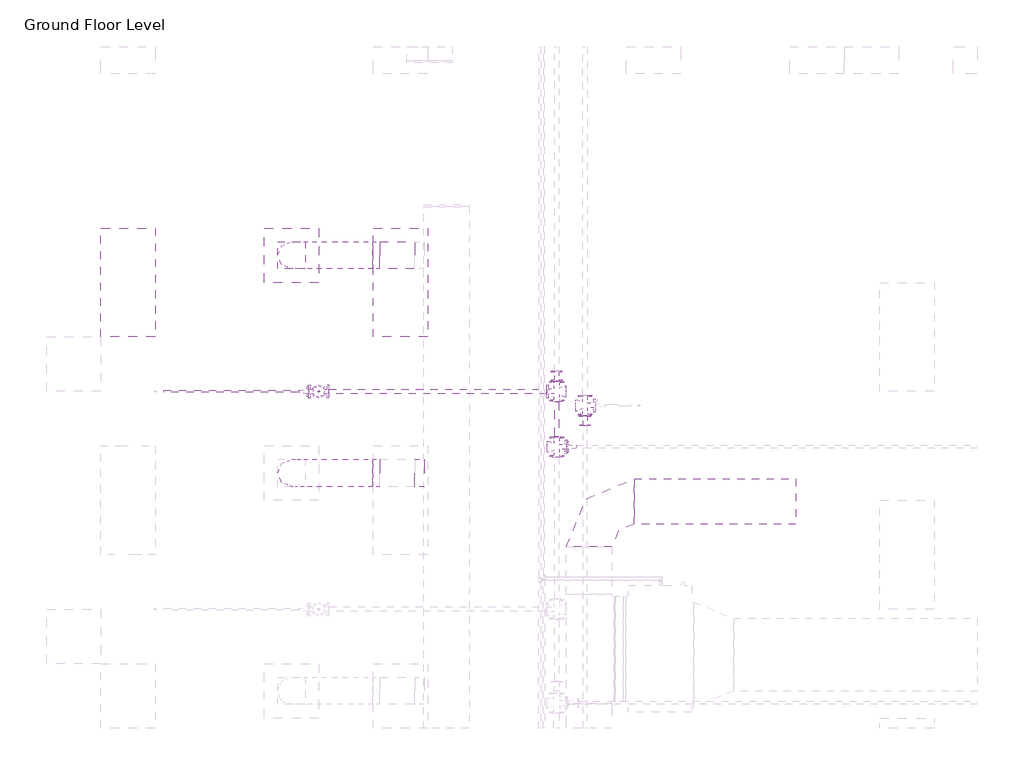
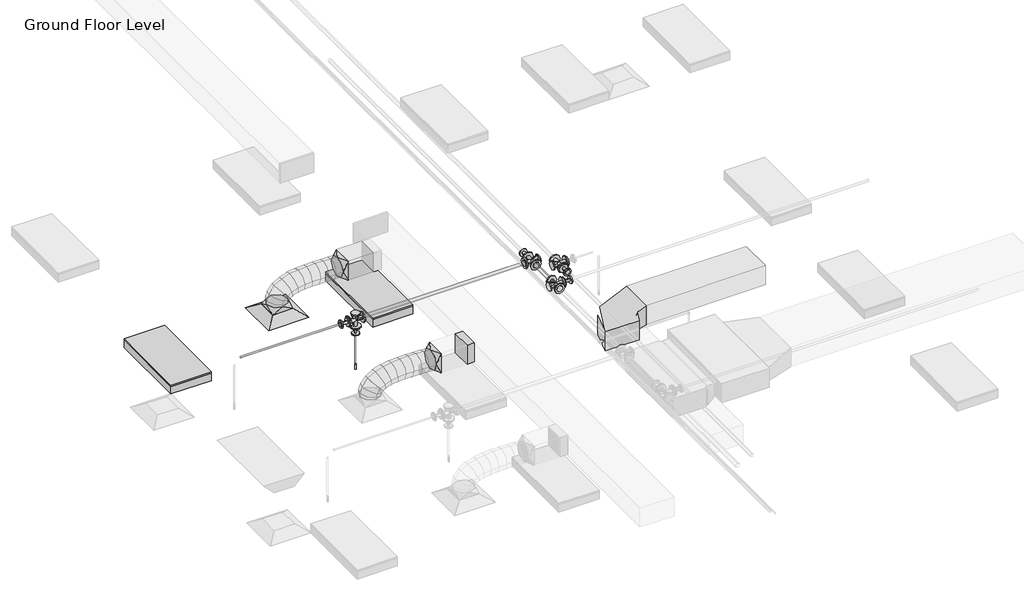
# One storey, part 26 of 74: 9 pipe fittings, 5 duct fittings, 4 duct segments, 4 pipe segments, 2 light fixtures, 1 air terminal, 1 fire suppression terminal.
"""IFC4 building model written with IfcOpenShell, lengths in millimetres."""

from ifc_helpers import new_model, si_unit, point, frame, frame_2d, origin, place, context, project, spatial, polyline, circle_curve, ellipse_curve, trimmed, segment, composite_curve, outline, extrude, transform, mapped, element, save
from ifc_brep_helpers import plane_surface, cylinder_surface, advanced_brep
from components import m_return_diffuser_600_x_600_face_300_x_300_connection_ff221211, m_rectangular_elbow_radius_1_w_abe20169, m_rectangular_takeoff_standard_cb0ccb98, m_rectangular_to_round_transition_angle_45_degree_641efff0, m_sprinkler_dry_pendent_hosted_15_mm_dry_pendent_9bda8e11, m_troffer_light_parabolic_rectangular1_0600x1200mm_4_lamp_86473d4a, m_reducer_flanged_cs_class_150_standard_564df86d, m_reducer_flanged_cs_class_150_standard_8338f9e4, m_reducer_flanged_cs_class_150_standard_dc68ad9d, m_tee_round_base_flanged_cs_class_150_standard_ab36f383

model = new_model("IFC4")

# Units and contexts
model_context = context("Model", 3, world=origin())
ifc_project = project(units=[si_unit("LENGTHUNIT", "METRE", prefix="MILLI")], contexts=[model_context])

# Site, building, storey
site = spatial("IfcSite", under=ifc_project)
building = spatial("IfcBuilding", under=site)
storey = spatial("IfcBuildingStorey", under=building, Name="Ground Floor Level", Elevation=900.0)

# Air terminal
placement = place(None, origin())
m_return_diffuser_600_x_600_face_300_x_300_connection_shape = m_return_diffuser_600_x_600_face_300_x_300_connection_ff221211(model_context)
element("IfcAirTerminal", 1, ObjectType="M_Supply Diffuser : 600 x 600 Face 300 x 300 Connection", at=placement, inside=storey, context=model_context, shape_type="MappedRepresentation", body=[
    mapped(m_return_diffuser_600_x_600_face_300_x_300_connection_shape, transform((2762.7672395, -17164.7846466, 3650.0), x_axis=(1.0, 0.0, 0.0), y_axis=(0.0, 1.0, 0.0), z_axis=(0.0, 0.0, 1.0))),
])

# Duct fittings
m_rectangular_elbow_radius_1_w_shape = m_rectangular_elbow_radius_1_w_abe20169(model_context)
element("IfcDuctFitting", 2, ObjectType="M_Rectangular Elbow - Radius : 1 W", at=placement, inside=storey, context=model_context, shape_type="MappedRepresentation", body=[
    mapped(m_rectangular_elbow_radius_1_w_shape, transform((6040.9897768, -19877.6206315, 4082.4543707), x_axis=(-1.0, 0.0, 0.0), y_axis=(0.0, -1.0, 0.0), z_axis=(0.0, 0.0, 1.0))),
])
m_rectangular_takeoff_standard_shape = m_rectangular_takeoff_standard_cb0ccb98(model_context)
element("IfcDuctFitting", 3, ObjectType="M_Rectangular Takeoff : Standard", at=placement, inside=storey, context=model_context, shape_type="MappedRepresentation", body=[
    mapped(m_rectangular_takeoff_standard_shape, transform((4219.1581832, -19564.7846466, 4057.1479019), x_axis=(-1.0, 0.0, 0.0), y_axis=(0.0, 1.0, 0.0), z_axis=(0.0, 0.0, -1.0))),
])
m_rectangular_to_round_transition_angle_45_degree_shape = m_rectangular_to_round_transition_angle_45_degree_641efff0(model_context)
element("IfcDuctFitting", 4, ObjectType="M_Rectangular to Round Transition - Angle : 45 Degree", at=placement, inside=storey, context=model_context, shape_type="MappedRepresentation", body=[
    mapped(m_rectangular_to_round_transition_angle_45_degree_shape, transform((2762.7672395, -17164.7846466, 3751.6), x_axis=(0.0, 0.0, 1.0), y_axis=(-1.0, 0.0, 0.0), z_axis=(0.0, -1.0, 0.0))),
])
element("IfcDuctFitting", 5, ObjectType="M_Rectangular to Round Transition - Angle : 45 Degree", at=placement, inside=storey, context=model_context, shape_type="MappedRepresentation", body=[
    mapped(m_rectangular_to_round_transition_angle_45_degree_shape, transform((3732.9593248, -17164.7846466, 4057.143846), x_axis=(-1.0, 0.0, 0.0), y_axis=(0.0, -1.0, 0.0), z_axis=(0.0, 0.0, 1.0))),
])
element("IfcDuctFitting", 6, ObjectType="M_Rectangular to Round Transition - Angle : 45 Degree", at=placement, inside=storey, context=model_context, shape_type="MappedRepresentation", body=[
    mapped(m_rectangular_to_round_transition_angle_45_degree_shape, transform((3732.9552689, -19564.7846466, 4057.1479019), x_axis=(-1.0, 0.0, 0.0), y_axis=(0.0, -1.0, 0.0), z_axis=(0.0, 0.0, 1.0))),
])

# Duct segments
element("IfcDuctSegment", 7, ObjectType="Flex - Round", at=placement, inside=storey, context=model_context, shape_type="AdvancedBrep", body=[
    advanced_brep(
    [(2912.7672395, -17164.7846466, 3826.6), (2762.7672395, -17314.7846466, 3826.6), (2612.7672395, -17164.7846466, 3826.6), (2762.7672395, -17014.7846466, 3826.6), (2912.7672395, -17164.7846466, 3832.8904054), (2762.7672395, -17314.7846466, 3856.84963), (2612.7672395, -17164.7846466, 3880.8088546), (2762.7672395, -17014.7846466, 3856.84963), (2914.0857611, -17164.7846466, 3836.9124951), (2779.5129985, -17314.7846466, 3907.9318018), (2644.940236, -17164.7846466, 3978.9511085), (2779.5129985, -17014.7846466, 3907.9318018), (2928.1333628, -17164.7846466, 3855.2232955), (2826.2863476, -17314.7846466, 3968.9000352), (2724.4393324, -17164.7846466, 4082.5767748), (2826.2863476, -17014.7846466, 3968.9000352), (2960.0749195, -17164.7846466, 3874.5762626), (2897.8913945, -17314.7846466, 4012.2845867), (2835.7078695, -17164.7846466, 4149.9929109), (2897.8913945, -17014.7846466, 4012.2845867), (3023.3474104, -17164.7846466, 3894.3960649), (2989.1322471, -17314.7846466, 4040.8653433), (2954.9170839, -17164.7846466, 4187.3346218), (2989.1322471, -17014.7846466, 4040.8653433), (3111.2188579, -17164.7846466, 3908.1627538), (3094.8130134, -17314.7846466, 4057.4221917), (3078.407169, -17164.7846466, 4206.6816296), (3094.8130134, -17014.7846466, 4057.4221917), (3215.0397402, -17164.7846466, 3914.7690234), (3209.7378012, -17314.7846466, 4064.7350186), (3204.4358622, -17164.7846466, 4214.7010137), (3209.7378012, -17014.7846466, 4064.7350186), (3327.4409955, -17164.7846466, 3915.5708367), (3328.7107184, -17314.7846466, 4065.5837107), (3329.9804412, -17164.7846466, 4215.5965847), (3328.7107184, -17014.7846466, 4065.5837107), (3442.2167216, -17164.7846466, 3912.8086677), (3446.5358728, -17314.7846466, 4062.7481548), (3450.855024, -17164.7846466, 4212.6876419), (3446.5358728, -17014.7846466, 4062.7481548), (3554.063392, -17164.7846466, 3909.0565), (3558.0173723, -17314.7846466, 4059.0082376), (3561.9713526, -17164.7846466, 4208.9599753), (3558.0173723, -17014.7846466, 4059.0082376), (3657.9593248, -17164.7846466, 3907.143846), (3657.9593248, -17014.7846466, 4057.143846), (3657.9593248, -17164.7846466, 4207.143846), (3657.9593248, -17314.7846466, 4057.143846), (3653.7223326, -17164.7846466, 3907.143846), (3655.1615998, -17314.7846466, 4057.143846), (3656.600867, -17164.7846466, 4207.143846), (3655.1615998, -17014.7846466, 4057.143846)],
    [
        (0, 1, circle_curve(frame((2762.7672395, -17164.7846466, 3826.6), z_axis=(0.0, 0.0, -1.0), x_axis=(1.0, 0.0, 0.0)), 150.0)),
        (1, 2, circle_curve(frame((2762.7672395, -17164.7846466, 3826.6), z_axis=(0.0, 0.0, -1.0), x_axis=(1.0, 0.0, 0.0)), 150.0)),
        (2, 3, circle_curve(frame((2762.7672395, -17164.7846466, 3826.6), z_axis=(0.0, 0.0, -1.0), x_axis=(1.0, 0.0, 0.0)), 150.0)),
        (3, 0, circle_curve(frame((2762.7672395, -17164.7846466, 3826.6), z_axis=(0.0, 0.0, -1.0), x_axis=(1.0, 0.0, 0.0)), 150.0)),
        (0, 4),
        (4, 5, ellipse_curve(frame((2762.7672395, -17164.7846466, 3856.84963), z_axis=(-0.1577287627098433, 0.0, -0.9874824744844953), x_axis=(0.9874824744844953, 0.0, -0.15772876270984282)), 151.90143, 150.0)),
        (5, 1),
        (5, 6, ellipse_curve(frame((2762.7672395, -17164.7846466, 3856.84963), z_axis=(-0.1577287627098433, 0.0, -0.9874824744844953), x_axis=(0.9874824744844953, 0.0, -0.15772876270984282)), 151.90143, 150.0)),
        (6, 2),
        (6, 7, ellipse_curve(frame((2762.7672395, -17164.7846466, 3856.84963), z_axis=(-0.1577287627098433, 0.0, -0.9874824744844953), x_axis=(0.9874824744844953, 0.0, -0.15772876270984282)), 151.90143, 150.0)),
        (7, 3),
        (7, 4, ellipse_curve(frame((2762.7672395, -17164.7846466, 3856.84963), z_axis=(-0.1577287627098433, 0.0, -0.9874824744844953), x_axis=(0.9874824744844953, 0.0, -0.15772876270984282)), 151.90143, 150.0)),
        (4, 8),
        (8, 9, ellipse_curve(frame((2779.5129985, -17164.7846466, 3907.9318018), z_axis=(-0.4667318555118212, 0.0, -0.8843988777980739), x_axis=(0.8843988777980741, 0.0, -0.4667318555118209)), 152.162973, 150.0)),
        (9, 5),
        (9, 10, ellipse_curve(frame((2779.5129985, -17164.7846466, 3907.9318018), z_axis=(-0.4667318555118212, 0.0, -0.8843988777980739), x_axis=(0.8843988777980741, 0.0, -0.4667318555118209)), 152.162973, 150.0)),
        (10, 6),
        (10, 11, ellipse_curve(frame((2779.5129985, -17164.7846466, 3907.9318018), z_axis=(-0.4667318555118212, 0.0, -0.8843988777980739), x_axis=(0.8843988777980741, 0.0, -0.4667318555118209)), 152.162973, 150.0)),
        (11, 7),
        (11, 8, ellipse_curve(frame((2779.5129985, -17164.7846466, 3907.9318018), z_axis=(-0.4667318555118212, 0.0, -0.8843988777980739), x_axis=(0.8843988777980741, 0.0, -0.4667318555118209)), 152.162973, 150.0)),
        (8, 12),
        (12, 13, ellipse_curve(frame((2826.2863476, -17164.7846466, 3968.9000352), z_axis=(-0.7447975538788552, 0.0, -0.6672904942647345), x_axis=(0.667290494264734, 0.0, -0.7447975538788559)), 152.6277027, 150.0)),
        (13, 9),
        (13, 14, ellipse_curve(frame((2826.2863476, -17164.7846466, 3968.9000352), z_axis=(-0.7447975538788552, 0.0, -0.6672904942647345), x_axis=(0.667290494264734, 0.0, -0.7447975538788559)), 152.6277027, 150.0)),
        (14, 10),
        (14, 15, ellipse_curve(frame((2826.2863476, -17164.7846466, 3968.9000352), z_axis=(-0.7447975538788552, 0.0, -0.6672904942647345), x_axis=(0.667290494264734, 0.0, -0.7447975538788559)), 152.6277027, 150.0)),
        (15, 11),
        (15, 12, ellipse_curve(frame((2826.2863476, -17164.7846466, 3968.9000352), z_axis=(-0.7447975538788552, 0.0, -0.6672904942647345), x_axis=(0.667290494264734, 0.0, -0.7447975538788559)), 152.6277027, 150.0)),
        (12, 16),
        (16, 17, ellipse_curve(frame((2897.8913945, -17164.7846466, 4012.2845867), z_axis=(-0.9113887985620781, 0.0, -0.41154642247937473), x_axis=(0.41154642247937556, 0.0, -0.9113887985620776)), 151.0972314, 150.0)),
        (17, 13),
        (17, 18, ellipse_curve(frame((2897.8913945, -17164.7846466, 4012.2845867), z_axis=(-0.9113887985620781, 0.0, -0.41154642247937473), x_axis=(0.41154642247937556, 0.0, -0.9113887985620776)), 151.0972314, 150.0)),
        (18, 14),
        (18, 19, ellipse_curve(frame((2897.8913945, -17164.7846466, 4012.2845867), z_axis=(-0.9113887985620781, 0.0, -0.41154642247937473), x_axis=(0.41154642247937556, 0.0, -0.9113887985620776)), 151.0972314, 150.0)),
        (19, 15),
        (19, 16, ellipse_curve(frame((2897.8913945, -17164.7846466, 4012.2845867), z_axis=(-0.9113887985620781, 0.0, -0.41154642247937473), x_axis=(0.41154642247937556, 0.0, -0.9113887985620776)), 151.0972314, 150.0)),
        (16, 20),
        (20, 21, ellipse_curve(frame((2989.1322471, -17164.7846466, 4040.8653433), z_axis=(-0.9737838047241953, 0.0, -0.2274754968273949), x_axis=(0.22747549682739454, 0.0, -0.9737838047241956)), 150.4125225, 150.0)),
        (21, 17),
        (21, 22, ellipse_curve(frame((2989.1322471, -17164.7846466, 4040.8653433), z_axis=(-0.9737838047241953, 0.0, -0.2274754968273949), x_axis=(0.22747549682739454, 0.0, -0.9737838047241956)), 150.4125225, 150.0)),
        (22, 18),
        (22, 23, ellipse_curve(frame((2989.1322471, -17164.7846466, 4040.8653433), z_axis=(-0.9737838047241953, 0.0, -0.2274754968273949), x_axis=(0.22747549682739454, 0.0, -0.9737838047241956)), 150.4125225, 150.0)),
        (23, 19),
        (23, 20, ellipse_curve(frame((2989.1322471, -17164.7846466, 4040.8653433), z_axis=(-0.9737838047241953, 0.0, -0.2274754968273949), x_axis=(0.22747549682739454, 0.0, -0.9737838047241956)), 150.4125225, 150.0)),
        (20, 24),
        (24, 25, ellipse_curve(frame((3094.8130134, -17164.7846466, 4057.4221917), z_axis=(-0.9940135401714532, 0.0, -0.10925695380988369), x_axis=(0.1092569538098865, 0.0, -0.9940135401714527)), 150.1583549, 150.0)),
        (25, 21),
        (25, 26, ellipse_curve(frame((3094.8130134, -17164.7846466, 4057.4221917), z_axis=(-0.9940135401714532, 0.0, -0.10925695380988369), x_axis=(0.1092569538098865, 0.0, -0.9940135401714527)), 150.1583549, 150.0)),
        (26, 22),
        (26, 27, ellipse_curve(frame((3094.8130134, -17164.7846466, 4057.4221917), z_axis=(-0.9940135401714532, 0.0, -0.10925695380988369), x_axis=(0.1092569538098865, 0.0, -0.9940135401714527)), 150.1583549, 150.0)),
        (27, 23),
        (27, 24, ellipse_curve(frame((3094.8130134, -17164.7846466, 4057.4221917), z_axis=(-0.9940135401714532, 0.0, -0.10925695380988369), x_axis=(0.1092569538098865, 0.0, -0.9940135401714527)), 150.1583549, 150.0)),
        (24, 28),
        (28, 29, ellipse_curve(frame((3209.7378012, -17164.7846466, 4064.7350186), z_axis=(-0.999375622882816, 0.0, -0.035332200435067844), x_axis=(0.035332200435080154, 0.0, -0.9993756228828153)), 150.059689, 150.0)),
        (29, 25),
        (29, 30, ellipse_curve(frame((3209.7378012, -17164.7846466, 4064.7350186), z_axis=(-0.999375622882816, 0.0, -0.035332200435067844), x_axis=(0.035332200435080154, 0.0, -0.9993756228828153)), 150.059689, 150.0)),
        (30, 26),
        (30, 31, ellipse_curve(frame((3209.7378012, -17164.7846466, 4064.7350186), z_axis=(-0.999375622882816, 0.0, -0.035332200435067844), x_axis=(0.035332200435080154, 0.0, -0.9993756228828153)), 150.059689, 150.0)),
        (31, 27),
        (31, 28, ellipse_curve(frame((3209.7378012, -17164.7846466, 4064.7350186), z_axis=(-0.999375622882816, 0.0, -0.035332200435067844), x_axis=(0.035332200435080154, 0.0, -0.9993756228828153)), 150.059689, 150.0)),
        (28, 32),
        (32, 33, ellipse_curve(frame((3328.7107184, -17164.7846466, 4065.5837107), z_axis=(-0.9999641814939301, 0.0, 0.008463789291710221), x_axis=(-0.00846378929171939, 0.0, -0.9999641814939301)), 150.0182474, 150.0)),
        (33, 29),
        (33, 34, ellipse_curve(frame((3328.7107184, -17164.7846466, 4065.5837107), z_axis=(-0.9999641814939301, 0.0, 0.008463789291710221), x_axis=(-0.00846378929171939, 0.0, -0.9999641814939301)), 150.0182474, 150.0)),
        (34, 30),
        (34, 35, ellipse_curve(frame((3328.7107184, -17164.7846466, 4065.5837107), z_axis=(-0.9999641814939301, 0.0, 0.008463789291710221), x_axis=(-0.00846378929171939, 0.0, -0.9999641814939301)), 150.0182474, 150.0)),
        (35, 31),
        (35, 32, ellipse_curve(frame((3328.7107184, -17164.7846466, 4065.5837107), z_axis=(-0.9999641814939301, 0.0, 0.008463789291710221), x_axis=(-0.00846378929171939, 0.0, -0.9999641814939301)), 150.0182474, 150.0)),
        (32, 36),
        (36, 37, ellipse_curve(frame((3446.5358728, -17164.7846466, 4062.7481548), z_axis=(-0.9995853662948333, 0.0, 0.02879401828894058), x_axis=(-0.028794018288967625, -3.989114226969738e-12, -0.9995853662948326)), 150.0016828, 150.0)),
        (37, 33),
        (37, 38, ellipse_curve(frame((3446.5358728, -17164.7846466, 4062.7481548), z_axis=(-0.9995853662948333, 0.0, 0.02879401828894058), x_axis=(-0.028794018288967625, -3.989114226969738e-12, -0.9995853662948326)), 150.0016828, 150.0)),
        (38, 34),
        (38, 39, ellipse_curve(frame((3446.5358728, -17164.7846466, 4062.7481548), z_axis=(-0.9995853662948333, 0.0, 0.02879401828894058), x_axis=(-0.028794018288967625, -3.989114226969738e-12, -0.9995853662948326)), 150.0016828, 150.0)),
        (39, 35),
        (39, 36, ellipse_curve(frame((3446.5358728, -17164.7846466, 4062.7481548), z_axis=(-0.9995853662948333, 0.0, 0.02879401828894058), x_axis=(-0.028794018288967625, -3.989114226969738e-12, -0.9995853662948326)), 150.0016828, 150.0)),
        (36, 40),
        (40, 41, ellipse_curve(frame((3558.0173723, -17164.7846466, 4059.0082376), z_axis=(-0.9996525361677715, 0.0, 0.026359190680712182), x_axis=(0.026359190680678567, 1.3534899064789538e-12, 0.9996525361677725)), 150.0038586, 150.0)),
        (41, 37),
        (41, 42, ellipse_curve(frame((3558.0173723, -17164.7846466, 4059.0082376), z_axis=(-0.9996525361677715, 0.0, 0.026359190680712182), x_axis=(0.026359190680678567, 1.3534899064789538e-12, 0.9996525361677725)), 150.0038586, 150.0)),
        (42, 38),
        (42, 43, ellipse_curve(frame((3558.0173723, -17164.7846466, 4059.0082376), z_axis=(-0.9996525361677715, 0.0, 0.026359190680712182), x_axis=(0.026359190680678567, 1.3534899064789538e-12, 0.9996525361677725)), 150.0038586, 150.0)),
        (43, 39),
        (43, 40, ellipse_curve(frame((3558.0173723, -17164.7846466, 4059.0082376), z_axis=(-0.9996525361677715, 0.0, 0.026359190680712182), x_axis=(0.026359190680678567, 1.3534899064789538e-12, 0.9996525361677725)), 150.0038586, 150.0)),
        (44, 45, circle_curve(frame((3657.9593248, -17164.7846466, 4057.143846), z_axis=(1.0, 0.0, 0.0), x_axis=(0.0, 0.0, -1.0)), 150.0)),
        (45, 46, circle_curve(frame((3657.9593248, -17164.7846466, 4057.143846), z_axis=(1.0, 0.0, 0.0), x_axis=(0.0, 0.0, -1.0)), 150.0)),
        (46, 47, circle_curve(frame((3657.9593248, -17164.7846466, 4057.143846), z_axis=(1.0, 0.0, 0.0), x_axis=(0.0, 0.0, -1.0)), 150.0)),
        (47, 44, circle_curve(frame((3657.9593248, -17164.7846466, 4057.143846), z_axis=(1.0, 0.0, 0.0), x_axis=(0.0, 0.0, -1.0)), 150.0)),
        (40, 48),
        (48, 49, ellipse_curve(frame((3655.1615998, -17164.7846466, 4057.143846), z_axis=(-0.999953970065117, 0.0, 0.009594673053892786), x_axis=(0.00959467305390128, 0.0, 0.999953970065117)), 150.0069048, 150.0)),
        (49, 41),
        (49, 50, ellipse_curve(frame((3655.1615998, -17164.7846466, 4057.143846), z_axis=(-0.999953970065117, 0.0, 0.009594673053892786), x_axis=(0.00959467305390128, 0.0, 0.999953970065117)), 150.0069048, 150.0)),
        (50, 42),
        (50, 51, ellipse_curve(frame((3655.1615998, -17164.7846466, 4057.143846), z_axis=(-0.999953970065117, 0.0, 0.009594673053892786), x_axis=(0.00959467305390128, 0.0, 0.999953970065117)), 150.0069048, 150.0)),
        (51, 43),
        (51, 48, ellipse_curve(frame((3655.1615998, -17164.7846466, 4057.143846), z_axis=(-0.999953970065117, 0.0, 0.009594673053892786), x_axis=(0.00959467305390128, 0.0, 0.999953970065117)), 150.0069048, 150.0)),
        (48, 44),
        (47, 49),
        (46, 50),
        (45, 51),
    ],
    [
        plane_surface(frame((2762.7672395, -17314.7846466, 3826.6), z_axis=(0.0, 0.0, -1.0), x_axis=(1.0, 0.0, 0.0))),
        cylinder_surface(frame((2762.7672395, -17164.7846466, 3826.6), z_axis=(0.0, 0.0, -1.0), x_axis=(1.0, 0.0, 0.0)), 150.0),
        cylinder_surface(frame((2762.7672395, -17164.7846466, 3856.84963), z_axis=(-0.3115087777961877, 0.0, -0.9502432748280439), x_axis=(0.9502432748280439, 0.0, -0.3115087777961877)), 150.0),
        cylinder_surface(frame((2779.5129985, -17164.7846466, 3907.9318018), z_axis=(-0.6086858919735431, 0.0, -0.7934112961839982), x_axis=(0.7934112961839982, 0.0, -0.6086858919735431)), 150.0),
        cylinder_surface(frame((2826.2863476, -17164.7846466, 3968.9000352), z_axis=(-0.8552637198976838, 0.0, -0.5181929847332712), x_axis=(0.5181929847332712, 0.0, -0.8552637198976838)), 150.0),
        cylinder_surface(frame((2897.8913945, -17164.7846466, 4012.2845867), z_axis=(-0.9542773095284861, 0.0, -0.2989227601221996), x_axis=(0.2989227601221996, 0.0, -0.9542773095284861)), 150.0),
        cylinder_surface(frame((2989.1322471, -17164.7846466, 4040.8653433), z_axis=(-0.9879488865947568, 0.0, -0.15478048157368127), x_axis=(0.15478048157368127, 0.0, -0.9879488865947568)), 150.0),
        cylinder_surface(frame((3094.8130134, -17164.7846466, 4057.4221917), z_axis=(-0.9979816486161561, 0.0, -0.06350298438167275), x_axis=(0.06350298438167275, 0.0, -0.9979816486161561)), 150.0),
        cylinder_surface(frame((3209.7378012, -17164.7846466, 4064.7350186), z_axis=(-0.9999745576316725, 0.0, -0.007133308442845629), x_axis=(0.007133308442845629, 0.0, -0.9999745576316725)), 150.0),
        cylinder_surface(frame((3328.7107184, -17164.7846466, 4065.5837107), z_axis=(-0.9997105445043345, 0.0, 0.024058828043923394), x_axis=(-0.024058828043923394, 0.0, -0.9997105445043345)), 150.0),
        cylinder_surface(frame((3446.5358728, -17164.7846466, 4062.7481548), z_axis=(-0.9994377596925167, 0.0, 0.03352856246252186), x_axis=(-0.03352856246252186, 0.0, -0.9994377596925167)), 150.0),
        plane_surface(frame((3657.9593248, -17164.7846466, 3907.143846), z_axis=(1.0, 0.0, 0.0), x_axis=(0.0, 1.0, 0.0))),
        cylinder_surface(frame((3558.0173723, -17164.7846466, 4059.0082376), z_axis=(-0.9998158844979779, 0.0, 0.019188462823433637), x_axis=(-0.019188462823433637, 0.0, -0.9998158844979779)), 150.0),
        cylinder_surface(frame((3655.1615998, -17164.7846466, 4057.143846), z_axis=(-1.0, 0.0, 0.0), x_axis=(0.0, 0.0, -1.0)), 150.0),
    ],
    [
        (0, [[1, 2, 3, 4]]),
        (1, [[-1, 5, 6, 7]]),
        (1, [[-2, -7, 8, 9]]),
        (1, [[-3, -9, 10, 11]]),
        (1, [[-4, -11, 12, -5]]),
        (2, [[-6, 13, 14, 15]]),
        (2, [[-8, -15, 16, 17]]),
        (2, [[-10, -17, 18, 19]]),
        (2, [[-12, -19, 20, -13]]),
        (3, [[-14, 21, 22, 23]]),
        (3, [[-16, -23, 24, 25]]),
        (3, [[-18, -25, 26, 27]]),
        (3, [[-20, -27, 28, -21]]),
        (4, [[-22, 29, 30, 31]]),
        (4, [[-24, -31, 32, 33]]),
        (4, [[-26, -33, 34, 35]]),
        (4, [[-28, -35, 36, -29]]),
        (5, [[-30, 37, 38, 39]]),
        (5, [[-32, -39, 40, 41]]),
        (5, [[-34, -41, 42, 43]]),
        (5, [[-36, -43, 44, -37]]),
        (6, [[-38, 45, 46, 47]]),
        (6, [[-40, -47, 48, 49]]),
        (6, [[-42, -49, 50, 51]]),
        (6, [[-44, -51, 52, -45]]),
        (7, [[-46, 53, 54, 55]]),
        (7, [[-48, -55, 56, 57]]),
        (7, [[-50, -57, 58, 59]]),
        (7, [[-52, -59, 60, -53]]),
        (8, [[-54, 61, 62, 63]]),
        (8, [[-56, -63, 64, 65]]),
        (8, [[-58, -65, 66, 67]]),
        (8, [[-60, -67, 68, -61]]),
        (9, [[-62, 69, 70, 71]]),
        (9, [[-64, -71, 72, 73]]),
        (9, [[-66, -73, 74, 75]]),
        (9, [[-68, -75, 76, -69]]),
        (10, [[-70, 77, 78, 79]]),
        (10, [[-72, -79, 80, 81]]),
        (10, [[-74, -81, 82, 83]]),
        (10, [[-76, -83, 84, -77]]),
        (11, [[85, 86, 87, 88]]),
        (12, [[-78, 89, 90, 91]]),
        (12, [[-80, -91, 92, 93]]),
        (12, [[-82, -93, 94, 95]]),
        (12, [[-84, -95, 96, -89]]),
        (13, [[-90, 97, -88, 98]]),
        (13, [[-92, -98, -87, 99]]),
        (13, [[-94, -99, -86, 100]]),
        (13, [[-96, -100, -85, -97]]),
    ],
),
])
element("IfcDuctSegment", 8, ObjectType="Flex - Round", at=placement, inside=storey, context=model_context, shape_type="AdvancedBrep", body=[
    advanced_brep(
    [(2912.7672395, -19564.7846466, 3826.6), (2762.7672395, -19714.7846466, 3826.6), (2612.7672395, -19564.7846466, 3826.6), (2762.7672395, -19414.7846466, 3826.6), (2912.7672395, -19564.7846466, 3832.8904098), (2762.7672395, -19714.7846466, 3856.8495224), (2612.7672395, -19564.7846466, 3880.8086351), (2762.7672395, -19414.7846466, 3856.8495224), (2914.0858346, -19564.7846466, 3836.9127437), (2779.5129112, -19714.7846466, 3907.9316792), (2644.9399878, -19564.7846466, 3978.9506146), (2779.5129112, -19414.7846466, 3907.9316792), (2928.1335887, -19564.7846466, 3855.2238886), (2826.2860191, -19714.7846466, 3968.9000837), (2724.4384494, -19564.7846466, 4082.5762788), (2826.2860191, -19414.7846466, 3968.9000837), (2960.0751433, -19564.7846466, 3874.5771306), (2897.8907021, -19714.7846466, 4012.2850341), (2835.706261, -19564.7846466, 4149.9929377), (2897.8907021, -19414.7846466, 4012.2850341), (3023.3472749, -19564.7846466, 3894.3973079), (2989.1310994, -19714.7846466, 4040.8663511), (2954.9149239, -19564.7846466, 4187.3353943), (2989.1310994, -19414.7846466, 4040.8663511), (3111.2181676, -19564.7846466, 3908.1645223), (3094.81135, -19714.7846466, 4057.4238552), (3078.4045323, -19564.7846466, 4206.6831881), (3094.81135, -19414.7846466, 4057.4238552), (3215.0384102, -19564.7846466, 3914.7714012), (3209.7355929, -19714.7846466, 4064.7373669), (3204.4327755, -19564.7846466, 4214.7033325), (3209.7355929, -19414.7846466, 4064.7373669), (3327.4389939, -19564.7846466, 3915.5738253), (3328.7079672, -19714.7846466, 4065.5867068), (3329.9769404, -19564.7846466, 4215.5995883), (3328.7079672, -19414.7846466, 4065.5867068), (3442.2140413, -19564.7846466, 3912.8121913), (3446.5326119, -19714.7846466, 4062.7516956), (3450.8511825, -19564.7846466, 4212.6911999), (3446.5326119, -19414.7846466, 4062.7516956), (3554.0600336, -19564.7846466, 3909.0604079), (3558.0136661, -19714.7846466, 4059.0121538), (3561.9672986, -19564.7846466, 4208.9638996), (3558.0136661, -19414.7846466, 4059.0121538), (3657.9552689, -19564.7846466, 3907.1479019), (3657.9552689, -19414.7846466, 4057.1479019), (3657.9552689, -19564.7846466, 4207.1479019), (3657.9552689, -19714.7846466, 4057.1479019), (3653.7185823, -19564.7846466, 3907.1479019), (3655.1577438, -19714.7846466, 4057.1479019), (3656.5969053, -19564.7846466, 4207.1479019), (3655.1577438, -19414.7846466, 4057.1479019)],
    [
        (0, 1, circle_curve(frame((2762.7672395, -19564.7846466, 3826.6), z_axis=(0.0, 0.0, -1.0), x_axis=(1.0, 0.0, 0.0)), 150.0)),
        (1, 2, circle_curve(frame((2762.7672395, -19564.7846466, 3826.6), z_axis=(0.0, 0.0, -1.0), x_axis=(1.0, 0.0, 0.0)), 150.0)),
        (2, 3, circle_curve(frame((2762.7672395, -19564.7846466, 3826.6), z_axis=(0.0, 0.0, -1.0), x_axis=(1.0, 0.0, 0.0)), 150.0)),
        (3, 0, circle_curve(frame((2762.7672395, -19564.7846466, 3826.6), z_axis=(0.0, 0.0, -1.0), x_axis=(1.0, 0.0, 0.0)), 150.0)),
        (0, 4),
        (4, 5, ellipse_curve(frame((2762.7672395, -19564.7846466, 3856.8495224), z_axis=(-0.157728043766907, 0.0, -0.9874825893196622), x_axis=(0.9874825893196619, 0.0, -0.15772804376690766)), 151.9014124, 150.0)),
        (5, 1),
        (5, 6, ellipse_curve(frame((2762.7672395, -19564.7846466, 3856.8495224), z_axis=(-0.157728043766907, 0.0, -0.9874825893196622), x_axis=(0.9874825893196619, 0.0, -0.15772804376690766)), 151.9014124, 150.0)),
        (6, 2),
        (6, 7, ellipse_curve(frame((2762.7672395, -19564.7846466, 3856.8495224), z_axis=(-0.157728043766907, 0.0, -0.9874825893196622), x_axis=(0.9874825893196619, 0.0, -0.15772804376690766)), 151.9014124, 150.0)),
        (7, 3),
        (7, 4, ellipse_curve(frame((2762.7672395, -19564.7846466, 3856.8495224), z_axis=(-0.157728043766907, 0.0, -0.9874825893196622), x_axis=(0.9874825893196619, 0.0, -0.15772804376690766)), 151.9014124, 150.0)),
        (4, 8),
        (8, 9, ellipse_curve(frame((2779.5129112, -19564.7846466, 3907.9316792), z_axis=(-0.4667295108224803, 0.0, -0.8844001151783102), x_axis=(0.8844001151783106, 0.0, -0.46672951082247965)), 152.162942, 150.0)),
        (9, 5),
        (9, 10, ellipse_curve(frame((2779.5129112, -19564.7846466, 3907.9316792), z_axis=(-0.4667295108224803, 0.0, -0.8844001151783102), x_axis=(0.8844001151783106, 0.0, -0.46672951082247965)), 152.162942, 150.0)),
        (10, 6),
        (10, 11, ellipse_curve(frame((2779.5129112, -19564.7846466, 3907.9316792), z_axis=(-0.4667295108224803, 0.0, -0.8844001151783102), x_axis=(0.8844001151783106, 0.0, -0.46672951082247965)), 152.162942, 150.0)),
        (11, 7),
        (11, 8, ellipse_curve(frame((2779.5129112, -19564.7846466, 3907.9316792), z_axis=(-0.4667295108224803, 0.0, -0.8844001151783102), x_axis=(0.8844001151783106, 0.0, -0.46672951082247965)), 152.162942, 150.0)),
        (8, 12),
        (12, 13, ellipse_curve(frame((2826.2860191, -19564.7846466, 3968.9000837), z_axis=(-0.7447941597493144, 0.0, -0.667294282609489), x_axis=(0.6672942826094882, 0.0, -0.7447941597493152)), 152.6276671, 150.0)),
        (13, 9),
        (13, 14, ellipse_curve(frame((2826.2860191, -19564.7846466, 3968.9000837), z_axis=(-0.7447941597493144, 0.0, -0.667294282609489), x_axis=(0.6672942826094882, 0.0, -0.7447941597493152)), 152.6276671, 150.0)),
        (14, 10),
        (14, 15, ellipse_curve(frame((2826.2860191, -19564.7846466, 3968.9000837), z_axis=(-0.7447941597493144, 0.0, -0.667294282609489), x_axis=(0.6672942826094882, 0.0, -0.7447941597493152)), 152.6276671, 150.0)),
        (15, 11),
        (15, 12, ellipse_curve(frame((2826.2860191, -19564.7846466, 3968.9000837), z_axis=(-0.7447941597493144, 0.0, -0.667294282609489), x_axis=(0.6672942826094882, 0.0, -0.7447941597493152)), 152.6276671, 150.0)),
        (12, 16),
        (16, 17, ellipse_curve(frame((2897.8907021, -19564.7846466, 4012.2850341), z_axis=(-0.9113860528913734, 0.0, -0.4115525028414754), x_axis=(0.4115525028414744, 0.0, -0.911386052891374)), 151.097225, 150.0)),
        (17, 13),
        (17, 18, ellipse_curve(frame((2897.8907021, -19564.7846466, 4012.2850341), z_axis=(-0.9113860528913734, 0.0, -0.4115525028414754), x_axis=(0.4115525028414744, 0.0, -0.911386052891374)), 151.097225, 150.0)),
        (18, 14),
        (18, 19, ellipse_curve(frame((2897.8907021, -19564.7846466, 4012.2850341), z_axis=(-0.9113860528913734, 0.0, -0.4115525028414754), x_axis=(0.4115525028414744, 0.0, -0.911386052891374)), 151.097225, 150.0)),
        (19, 15),
        (19, 16, ellipse_curve(frame((2897.8907021, -19564.7846466, 4012.2850341), z_axis=(-0.9113860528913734, 0.0, -0.4115525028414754), x_axis=(0.4115525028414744, 0.0, -0.911386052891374)), 151.097225, 150.0)),
        (16, 20),
        (20, 21, ellipse_curve(frame((2989.1310994, -19564.7846466, 4040.8663511), z_axis=(-0.9737822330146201, 0.0, -0.2274822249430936), x_axis=(0.22748222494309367, 0.0, -0.9737822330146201)), 150.4125237, 150.0)),
        (21, 17),
        (21, 22, ellipse_curve(frame((2989.1310994, -19564.7846466, 4040.8663511), z_axis=(-0.9737822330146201, 0.0, -0.2274822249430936), x_axis=(0.22748222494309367, 0.0, -0.9737822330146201)), 150.4125237, 150.0)),
        (22, 18),
        (22, 23, ellipse_curve(frame((2989.1310994, -19564.7846466, 4040.8663511), z_axis=(-0.9737822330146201, 0.0, -0.2274822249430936), x_axis=(0.22748222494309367, 0.0, -0.9737822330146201)), 150.4125237, 150.0)),
        (23, 19),
        (23, 20, ellipse_curve(frame((2989.1310994, -19564.7846466, 4040.8663511), z_axis=(-0.9737822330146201, 0.0, -0.2274822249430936), x_axis=(0.22748222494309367, 0.0, -0.9737822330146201)), 150.4125237, 150.0)),
        (20, 24),
        (24, 25, ellipse_curve(frame((3094.81135, -19564.7846466, 4057.4238552), z_axis=(-0.9940128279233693, 0.0, -0.10926343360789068), x_axis=(0.10926343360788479, 0.0, -0.9940128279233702)), 150.1583568, 150.0)),
        (25, 21),
        (25, 26, ellipse_curve(frame((3094.81135, -19564.7846466, 4057.4238552), z_axis=(-0.9940128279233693, 0.0, -0.10926343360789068), x_axis=(0.10926343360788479, 0.0, -0.9940128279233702)), 150.1583568, 150.0)),
        (26, 22),
        (26, 27, ellipse_curve(frame((3094.81135, -19564.7846466, 4057.4238552), z_axis=(-0.9940128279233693, 0.0, -0.10926343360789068), x_axis=(0.10926343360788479, 0.0, -0.9940128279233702)), 150.1583568, 150.0)),
        (27, 23),
        (27, 24, ellipse_curve(frame((3094.81135, -19564.7846466, 4057.4238552), z_axis=(-0.9940128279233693, 0.0, -0.10926343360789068), x_axis=(0.10926343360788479, 0.0, -0.9940128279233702)), 150.1583568, 150.0)),
        (24, 28),
        (28, 29, ellipse_curve(frame((3209.7355929, -19564.7846466, 4064.7373669), z_axis=(-0.9993754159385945, 0.0, -0.03533805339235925), x_axis=(0.03533805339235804, 0.0, -0.9993754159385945)), 150.0596906, 150.0)),
        (29, 25),
        (29, 30, ellipse_curve(frame((3209.7355929, -19564.7846466, 4064.7373669), z_axis=(-0.9993754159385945, 0.0, -0.03533805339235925), x_axis=(0.03533805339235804, 0.0, -0.9993754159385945)), 150.0596906, 150.0)),
        (30, 26),
        (30, 31, ellipse_curve(frame((3209.7355929, -19564.7846466, 4064.7373669), z_axis=(-0.9993754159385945, 0.0, -0.03533805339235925), x_axis=(0.03533805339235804, 0.0, -0.9993754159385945)), 150.0596906, 150.0)),
        (31, 27),
        (31, 28, ellipse_curve(frame((3209.7355929, -19564.7846466, 4064.7373669), z_axis=(-0.9993754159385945, 0.0, -0.03533805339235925), x_axis=(0.03533805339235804, 0.0, -0.9993754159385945)), 150.0596906, 150.0)),
        (28, 32),
        (32, 33, ellipse_curve(frame((3328.7079672, -19564.7846466, 4065.5867068), z_axis=(-0.9999642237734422, 0.0, 0.008458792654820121), x_axis=(-0.008458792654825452, 0.0, -0.9999642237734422)), 150.0182486, 150.0)),
        (33, 29),
        (33, 34, ellipse_curve(frame((3328.7079672, -19564.7846466, 4065.5867068), z_axis=(-0.9999642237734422, 0.0, 0.008458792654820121), x_axis=(-0.008458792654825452, 0.0, -0.9999642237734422)), 150.0182486, 150.0)),
        (34, 30),
        (34, 35, ellipse_curve(frame((3328.7079672, -19564.7846466, 4065.5867068), z_axis=(-0.9999642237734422, 0.0, 0.008458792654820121), x_axis=(-0.008458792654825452, 0.0, -0.9999642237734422)), 150.0182486, 150.0)),
        (35, 31),
        (35, 32, ellipse_curve(frame((3328.7079672, -19564.7846466, 4065.5867068), z_axis=(-0.9999642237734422, 0.0, 0.008458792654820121), x_axis=(-0.008458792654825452, 0.0, -0.9999642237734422)), 150.0182486, 150.0)),
        (32, 36),
        (36, 37, ellipse_curve(frame((3446.5326119, -19564.7846466, 4062.7516956), z_axis=(-0.9995854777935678, 0.0, 0.02879014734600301), x_axis=(-0.028790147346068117, 0.0, -0.999585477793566)), 150.0016833, 150.0)),
        (37, 33),
        (37, 38, ellipse_curve(frame((3446.5326119, -19564.7846466, 4062.7516956), z_axis=(-0.9995854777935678, 0.0, 0.02879014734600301), x_axis=(-0.028790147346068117, 0.0, -0.999585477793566)), 150.0016833, 150.0)),
        (38, 34),
        (38, 39, ellipse_curve(frame((3446.5326119, -19564.7846466, 4062.7516956), z_axis=(-0.9995854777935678, 0.0, 0.02879014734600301), x_axis=(-0.028790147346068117, 0.0, -0.999585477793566)), 150.0016833, 150.0)),
        (39, 35),
        (39, 36, ellipse_curve(frame((3446.5326119, -19564.7846466, 4062.7516956), z_axis=(-0.9995854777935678, 0.0, 0.02879014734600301), x_axis=(-0.028790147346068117, 0.0, -0.999585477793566)), 150.0016833, 150.0)),
        (36, 40),
        (40, 41, ellipse_curve(frame((3558.0136661, -19564.7846466, 4059.0121538), z_axis=(-0.999652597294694, 0.0, 0.026356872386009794), x_axis=(0.02635687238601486, 0.0, 0.9996525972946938)), 150.0038576, 150.0)),
        (41, 37),
        (41, 42, ellipse_curve(frame((3558.0136661, -19564.7846466, 4059.0121538), z_axis=(-0.999652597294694, 0.0, 0.026356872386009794), x_axis=(0.02635687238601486, 0.0, 0.9996525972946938)), 150.0038576, 150.0)),
        (42, 38),
        (42, 43, ellipse_curve(frame((3558.0136661, -19564.7846466, 4059.0121538), z_axis=(-0.999652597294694, 0.0, 0.026356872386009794), x_axis=(0.02635687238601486, 0.0, 0.9996525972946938)), 150.0038576, 150.0)),
        (43, 39),
        (43, 40, ellipse_curve(frame((3558.0136661, -19564.7846466, 4059.0121538), z_axis=(-0.999652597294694, 0.0, 0.026356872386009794), x_axis=(0.02635687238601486, 0.0, 0.9996525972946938)), 150.0038576, 150.0)),
        (44, 45, circle_curve(frame((3657.9552689, -19564.7846466, 4057.1479019), z_axis=(1.0, 0.0, 0.0), x_axis=(0.0, 0.0, -1.0)), 150.0)),
        (45, 46, circle_curve(frame((3657.9552689, -19564.7846466, 4057.1479019), z_axis=(1.0, 0.0, 0.0), x_axis=(0.0, 0.0, -1.0)), 150.0)),
        (46, 47, circle_curve(frame((3657.9552689, -19564.7846466, 4057.1479019), z_axis=(1.0, 0.0, 0.0), x_axis=(0.0, 0.0, -1.0)), 150.0)),
        (47, 44, circle_curve(frame((3657.9552689, -19564.7846466, 4057.1479019), z_axis=(1.0, 0.0, 0.0), x_axis=(0.0, 0.0, -1.0)), 150.0)),
        (40, 48),
        (48, 49, ellipse_curve(frame((3655.1577438, -19564.7846466, 4057.1479019), z_axis=(-0.9999539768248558, 0.0, 0.009593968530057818), x_axis=(0.009593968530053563, 0.0, 0.9999539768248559)), 150.0069038, 150.0)),
        (49, 41),
        (49, 50, ellipse_curve(frame((3655.1577438, -19564.7846466, 4057.1479019), z_axis=(-0.9999539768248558, 0.0, 0.009593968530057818), x_axis=(0.009593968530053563, 0.0, 0.9999539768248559)), 150.0069038, 150.0)),
        (50, 42),
        (50, 51, ellipse_curve(frame((3655.1577438, -19564.7846466, 4057.1479019), z_axis=(-0.9999539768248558, 0.0, 0.009593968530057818), x_axis=(0.009593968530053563, 0.0, 0.9999539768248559)), 150.0069038, 150.0)),
        (51, 43),
        (51, 48, ellipse_curve(frame((3655.1577438, -19564.7846466, 4057.1479019), z_axis=(-0.9999539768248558, 0.0, 0.009593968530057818), x_axis=(0.009593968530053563, 0.0, 0.9999539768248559)), 150.0069038, 150.0)),
        (48, 44),
        (47, 49),
        (46, 50),
        (45, 51),
    ],
    [
        plane_surface(frame((2762.7672395, -19714.7846466, 3826.6), z_axis=(0.0, 0.0, -1.0), x_axis=(1.0, 0.0, 0.0))),
        cylinder_surface(frame((2762.7672395, -19564.7846466, 3826.6), z_axis=(0.0, 0.0, -1.0), x_axis=(1.0, 0.0, 0.0)), 150.0),
        cylinder_surface(frame((2762.7672395, -19564.7846466, 3856.8495224), z_axis=(-0.3115073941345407, 0.0, -0.9502437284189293), x_axis=(0.9502437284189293, 0.0, -0.3115073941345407)), 150.0),
        cylinder_surface(frame((2779.5129112, -19564.7846466, 3907.9316792), z_axis=(-0.6086828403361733, 0.0, -0.7934136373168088), x_axis=(0.7934136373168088, 0.0, -0.6086828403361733)), 150.0),
        cylinder_surface(frame((2826.2860191, -19564.7846466, 3968.9000837), z_axis=(-0.8552604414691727, 0.0, -0.5181983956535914), x_axis=(0.5181983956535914, 0.0, -0.8552604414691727)), 150.0),
        cylinder_surface(frame((2897.8907021, -19564.7846466, 4012.2850341), z_axis=(-0.9542752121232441, 0.0, -0.29892945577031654), x_axis=(0.29892945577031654, 0.0, -0.9542752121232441)), 150.0),
        cylinder_surface(frame((2989.1310994, -19564.7846466, 4040.8663511), z_axis=(-0.9879478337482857, 0.0, -0.1547872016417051), x_axis=(0.1547872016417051, 0.0, -0.9879478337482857)), 150.0),
        cylinder_surface(frame((3094.81135, -19564.7846466, 4057.4238552), z_axis=(-0.9979812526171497, 0.0, -0.06350920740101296), x_axis=(0.06350920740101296, 0.0, -0.9979812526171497)), 150.0),
        cylinder_surface(frame((3209.7355929, -19564.7846466, 4064.7373669), z_axis=(-0.999974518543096, 0.0, -0.007138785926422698), x_axis=(0.007138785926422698, 0.0, -0.999974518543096)), 150.0),
        cylinder_surface(frame((3328.7079672, -19564.7846466, 4065.5867068), z_axis=(-0.9997106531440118, 0.0, 0.024054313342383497), x_axis=(-0.024054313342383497, 0.0, -0.9997106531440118)), 150.0),
        cylinder_surface(frame((3446.5326119, -19564.7846466, 4062.7516956), z_axis=(-0.9994378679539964, 0.0, 0.0335253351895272), x_axis=(-0.0335253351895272, 0.0, -0.9994378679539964)), 150.0),
        plane_surface(frame((3657.9552689, -19564.7846466, 3907.1479019), z_axis=(1.0, 0.0, 0.0), x_axis=(0.0, 1.0, 0.0))),
        cylinder_surface(frame((3558.0136661, -19564.7846466, 4059.0121538), z_axis=(-0.9998159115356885, 0.0, 0.01918705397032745), x_axis=(-0.01918705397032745, 0.0, -0.9998159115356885)), 150.0),
        cylinder_surface(frame((3655.1577438, -19564.7846466, 4057.1479019), z_axis=(-1.0, 0.0, 0.0), x_axis=(0.0, 0.0, -1.0)), 150.0),
    ],
    [
        (0, [[1, 2, 3, 4]]),
        (1, [[-1, 5, 6, 7]]),
        (1, [[-2, -7, 8, 9]]),
        (1, [[-3, -9, 10, 11]]),
        (1, [[-4, -11, 12, -5]]),
        (2, [[-6, 13, 14, 15]]),
        (2, [[-8, -15, 16, 17]]),
        (2, [[-10, -17, 18, 19]]),
        (2, [[-12, -19, 20, -13]]),
        (3, [[-14, 21, 22, 23]]),
        (3, [[-16, -23, 24, 25]]),
        (3, [[-18, -25, 26, 27]]),
        (3, [[-20, -27, 28, -21]]),
        (4, [[-22, 29, 30, 31]]),
        (4, [[-24, -31, 32, 33]]),
        (4, [[-26, -33, 34, 35]]),
        (4, [[-28, -35, 36, -29]]),
        (5, [[-30, 37, 38, 39]]),
        (5, [[-32, -39, 40, 41]]),
        (5, [[-34, -41, 42, 43]]),
        (5, [[-36, -43, 44, -37]]),
        (6, [[-38, 45, 46, 47]]),
        (6, [[-40, -47, 48, 49]]),
        (6, [[-42, -49, 50, 51]]),
        (6, [[-44, -51, 52, -45]]),
        (7, [[-46, 53, 54, 55]]),
        (7, [[-48, -55, 56, 57]]),
        (7, [[-50, -57, 58, 59]]),
        (7, [[-52, -59, 60, -53]]),
        (8, [[-54, 61, 62, 63]]),
        (8, [[-56, -63, 64, 65]]),
        (8, [[-58, -65, 66, 67]]),
        (8, [[-60, -67, 68, -61]]),
        (9, [[-62, 69, 70, 71]]),
        (9, [[-64, -71, 72, 73]]),
        (9, [[-66, -73, 74, 75]]),
        (9, [[-68, -75, 76, -69]]),
        (10, [[-70, 77, 78, 79]]),
        (10, [[-72, -79, 80, 81]]),
        (10, [[-74, -81, 82, 83]]),
        (10, [[-76, -83, 84, -77]]),
        (11, [[85, 86, 87, 88]]),
        (12, [[-78, 89, 90, 91]]),
        (12, [[-80, -91, 92, 93]]),
        (12, [[-82, -93, 94, 95]]),
        (12, [[-84, -95, 96, -89]]),
        (13, [[-90, 97, -88, 98]]),
        (13, [[-92, -98, -87, 99]]),
        (13, [[-94, -99, -86, 100]]),
        (13, [[-96, -100, -85, -97]]),
    ],
),
])
element("IfcDuctSegment", 9, ObjectType="Radius Elbows / Taps", at=placement, inside=storey, context=model_context, shape_type="SweptSolid", body=[
    extrude(outline(polyline([(6540.9897768, -20127.6206315), (6540.9897768, -19627.6206315), (8320.9897766, -19627.6206315), (8320.9897766, -20127.6206315), (6540.9897768, -20127.6206315)])), frame((0.0, 0.0, 3932.4543707), z_axis=(0.0, 0.0, 1.0), x_axis=(1.0, 0.0, 0.0)), (0.0, 0.0, 1.0), 300.0),
])
element("IfcDuctSegment", 10, ObjectType="Radius Elbows / Taps", at=placement, inside=storey, context=model_context, shape_type="SweptSolid", body=[
    extrude(outline(polyline([(4117.5581832, -17014.7846466), (4117.5581832, -17314.7846466), (3732.9593248, -17314.7846466), (3732.9593248, -17014.7846466), (4117.5581832, -17014.7846466)])), frame((0.0, 0.0, 3907.143846), z_axis=(0.0, 0.0, 1.0), x_axis=(1.0, 0.0, 0.0)), (0.0, 0.0, 1.0), 300.0),
])

# Fire suppression terminal
m_sprinkler_dry_pendent_hosted_15_mm_dry_pendent_shape = m_sprinkler_dry_pendent_hosted_15_mm_dry_pendent_9bda8e11(model_context)
element("IfcFireSuppressionTerminal", 11, ObjectType="M_Sprinkler - Dry - Pendent - Hosted : 15 mm Dry Pendent", at=placement, inside=storey, context=model_context, shape_type="MappedRepresentation", body=[
    mapped(m_sprinkler_dry_pendent_hosted_15_mm_dry_pendent_shape, transform((3062.7672395, -18664.7846466, 3650.0), x_axis=(1.0, 0.0, 0.0), y_axis=(0.0, -1.0, 0.0), z_axis=(0.0, 0.0, -1.0))),
])

# Light fixtures
m_troffer_light_parabolic_rectangular1_0600x1200mm_4_lamp_shape = m_troffer_light_parabolic_rectangular1_0600x1200mm_4_lamp_86473d4a(model_context)
element("IfcLightFixture", 12, ObjectType="M_Troffer Light - Parabolic Rectangular1 : 0600x1200mm(4 Lamp) - 277V 2", at=placement, inside=storey, context=model_context, shape_type="MappedRepresentation", body=[
    mapped(m_troffer_light_parabolic_rectangular1_0600x1200mm_4_lamp_shape, transform((903.3013074, -17446.081145, 3650.0), x_axis=(0.0, 1.0, 0.0), y_axis=(-1.0, 0.0, 0.0), z_axis=(0.0, 0.0, 1.0))),
])
element("IfcLightFixture", 13, ObjectType="M_Troffer Light - Parabolic Rectangular1 : 0600x1200mm(4 Lamp) - 277V 2", at=placement, inside=storey, context=model_context, shape_type="MappedRepresentation", body=[
    mapped(m_troffer_light_parabolic_rectangular1_0600x1200mm_4_lamp_shape, transform((3903.3013074, -17446.081145, 3650.0), x_axis=(0.0, 1.0, 0.0), y_axis=(-1.0, 0.0, 0.0), z_axis=(0.0, 0.0, 1.0))),
])

# Pipe fittings
m_reducer_flanged_cs_class_150_standard_shape = m_reducer_flanged_cs_class_150_standard_564df86d(model_context)
element("IfcPipeFitting", 14, ObjectType="M_Reducer - Flanged - CS - Class 150 : Standard", at=placement, inside=storey, context=model_context, shape_type="MappedRepresentation", body=[
    mapped(m_reducer_flanged_cs_class_150_standard_shape, transform((5997.057812, -18931.1285077, 4290.0), x_axis=(0.0, -1.0, 0.0), y_axis=(1.0, 0.0, 0.0), z_axis=(0.0, 0.0, 1.0))),
])
element("IfcPipeFitting", 15, ObjectType="M_Reducer - Flanged - CS - Class 150 : Standard", at=placement, inside=storey, context=model_context, shape_type="MappedRepresentation", body=[
    mapped(m_reducer_flanged_cs_class_150_standard_shape, transform((5684.6174894, -18552.5260529, 4347.5), x_axis=(0.0, 1.0, 0.0), y_axis=(-1.0, 0.0, 0.0), z_axis=(0.0, 0.0, 1.0))),
])
m_reducer_flanged_cs_class_150_standard_2_shape = m_reducer_flanged_cs_class_150_standard_8338f9e4(model_context)
element("IfcPipeFitting", 16, ObjectType="M_Reducer - Flanged - CS - Class 150 : Standard", at=placement, inside=storey, context=model_context, shape_type="MappedRepresentation", body=[
    mapped(m_reducer_flanged_cs_class_150_standard_2_shape, transform((5796.8760832, -19275.8856124, 4347.5), x_axis=(1.0, 0.0, 0.0), y_axis=(0.0, 0.0, 1.0), z_axis=(0.0, -1.0, 0.0))),
])
m_reducer_flanged_cs_class_150_standard_3_shape = m_reducer_flanged_cs_class_150_standard_dc68ad9d(model_context)
element("IfcPipeFitting", 17, ObjectType="M_Reducer - Flanged - CS - Class 150 : Standard", at=placement, inside=storey, context=model_context, shape_type="MappedRepresentation", body=[
    mapped(m_reducer_flanged_cs_class_150_standard_3_shape, transform((2950.5086457, -18664.7846466, 4347.5), x_axis=(-1.0, 0.0, 0.0), y_axis=(0.0, 0.0, 1.0), z_axis=(0.0, 1.0, 0.0))),
])
element("IfcPipeFitting", 18, ObjectType="M_Reducer - Flanged - CS - Class 150 : Standard", at=placement, inside=storey, context=model_context, shape_type="MappedRepresentation", body=[
    mapped(m_reducer_flanged_cs_class_150_standard_3_shape, transform((3062.7672395, -18664.7846466, 4235.2414062), x_axis=(0.0, 0.0, -1.0), y_axis=(-1.0, 0.0, 0.0), z_axis=(0.0, 1.0, 0.0))),
])
m_tee_round_base_flanged_cs_class_150_standard_shape = m_tee_round_base_flanged_cs_class_150_standard_ab36f383(model_context)
element("IfcPipeFitting", 19, ObjectType="M_Tee Round Base - Flanged - CS - Class 150 : Standard", at=placement, inside=storey, context=model_context, shape_type="MappedRepresentation", body=[
    mapped(m_tee_round_base_flanged_cs_class_150_standard_shape, transform((5997.057812, -18818.869914, 4290.0), x_axis=(0.0, 1.0, 0.0), y_axis=(-1.0, 0.0, 0.0), z_axis=(0.0, 0.0, 1.0))),
])
element("IfcPipeFitting", 20, ObjectType="M_Tee Round Base - Flanged - CS - Class 150 : Standard", at=placement, inside=storey, context=model_context, shape_type="MappedRepresentation", body=[
    mapped(m_tee_round_base_flanged_cs_class_150_standard_shape, transform((5684.6174894, -19275.8856124, 4347.5), x_axis=(0.0, -1.0, 0.0), y_axis=(-1.0, 0.0, 0.0), z_axis=(0.0, 0.0, -1.0))),
])
element("IfcPipeFitting", 21, ObjectType="M_Tee Round Base - Flanged - CS - Class 150 : Standard", at=placement, inside=storey, context=model_context, shape_type="MappedRepresentation", body=[
    mapped(m_tee_round_base_flanged_cs_class_150_standard_shape, transform((5684.6174894, -18664.7846466, 4347.5), x_axis=(0.0, -1.0, 0.0), y_axis=(1.0, 0.0, 0.0), z_axis=(0.0, 0.0, 1.0))),
])
element("IfcPipeFitting", 22, ObjectType="M_Tee Round Base - Flanged - CS - Class 150 : Standard", at=placement, inside=storey, context=model_context, shape_type="MappedRepresentation", body=[
    mapped(m_tee_round_base_flanged_cs_class_150_standard_shape, transform((3062.7672395, -18664.7846466, 4347.5), x_axis=(-1.0, 0.0, 0.0), y_axis=(0.0, 0.0, 1.0), z_axis=(0.0, 1.0, 0.0))),
])

# Pipe segments
element("IfcPipeSegment", 23, ObjectType="Steel flanged", at=placement, inside=storey, context=model_context, shape_type="SweptSolid", body=[
    extrude(outline(composite_curve([segment(trimmed(circle_curve(frame_2d((4347.5, 5684.6174894)), 24.13), [point((4347.5, 5708.7474894))], [point((4371.63, 5684.6174894))], False, "CARTESIAN"), True, "CONTINUOUS"), segment(trimmed(circle_curve(frame_2d((4347.5, 5684.6174894)), 24.13), [point((4371.63, 5684.6174894))], [point((4347.5, 5660.4874894))], False, "CARTESIAN"), True, "CONTINUOUS"), segment(trimmed(circle_curve(frame_2d((4347.5, 5684.6174894)), 24.13), [point((4347.5, 5660.4874894))], [point((4323.37, 5684.6174894))], False, "CARTESIAN"), True, "CONTINUOUS"), segment(trimmed(circle_curve(frame_2d((4347.5, 5684.6174894)), 24.13), [point((4323.37, 5684.6174894))], [point((4347.5, 5708.7474894))], False, "CARTESIAN"), True, "CONTINUOUS")], self_intersect=False)), frame((0.0, -19163.6270186, 0.0), z_axis=(0.0, 1.0, 0.0), x_axis=(0.0, 0.0, 1.0)), (0.0, 0.0, 1.0), 386.5837782),
])
element("IfcPipeSegment", 24, ObjectType="Steel flanged", at=placement, inside=storey, context=model_context, shape_type="SweptSolid", body=[
    extrude(outline(composite_curve([segment(trimmed(circle_curve(frame_2d((3062.7672395, -18664.7846466)), 10.668), [point((3052.0992395, -18664.7846466))], [point((3062.7672395, -18654.1166466))], False, "CARTESIAN"), True, "CONTINUOUS"), segment(trimmed(circle_curve(frame_2d((3062.7672395, -18664.7846466)), 10.668), [point((3062.7672395, -18654.1166466))], [point((3073.4352395, -18664.7846466))], False, "CARTESIAN"), True, "CONTINUOUS"), segment(trimmed(circle_curve(frame_2d((3062.7672395, -18664.7846466)), 10.668), [point((3073.4352395, -18664.7846466))], [point((3062.7672395, -18675.4526466))], False, "CARTESIAN"), True, "CONTINUOUS"), segment(trimmed(circle_curve(frame_2d((3062.7672395, -18664.7846466)), 10.668), [point((3062.7672395, -18675.4526466))], [point((3052.0992395, -18664.7846466))], False, "CARTESIAN"), True, "CONTINUOUS")], self_intersect=False)), frame((0.0, 0.0, 3650.0), z_axis=(0.0, 0.0, 1.0), x_axis=(1.0, 0.0, 0.0)), (0.0, 0.0, 1.0), 471.2414062),
])
element("IfcPipeSegment", 25, ObjectType="Steel flanged", at=placement, inside=storey, context=model_context, shape_type="SweptSolid", body=[
    extrude(outline(composite_curve([segment(trimmed(circle_curve(frame_2d((-18664.7846466, 4347.5)), 24.13), [point((-18688.9146466, 4347.5))], [point((-18664.7846466, 4371.63))], False, "CARTESIAN"), True, "CONTINUOUS"), segment(trimmed(circle_curve(frame_2d((-18664.7846466, 4347.5)), 24.13), [point((-18664.7846466, 4371.63))], [point((-18640.6546466, 4347.5))], False, "CARTESIAN"), True, "CONTINUOUS"), segment(trimmed(circle_curve(frame_2d((-18664.7846466, 4347.5)), 24.13), [point((-18640.6546466, 4347.5))], [point((-18664.7846466, 4323.37))], False, "CARTESIAN"), True, "CONTINUOUS"), segment(trimmed(circle_curve(frame_2d((-18664.7846466, 4347.5)), 24.13), [point((-18664.7846466, 4323.37))], [point((-18688.9146466, 4347.5))], False, "CARTESIAN"), True, "CONTINUOUS")], self_intersect=False)), frame((3175.0258332, 0.0, 0.0), z_axis=(1.0, 0.0, 0.0), x_axis=(0.0, 1.0, 0.0)), (0.0, 0.0, 1.0), 2397.3330624),
])
element("IfcPipeSegment", 26, ObjectType="Steel flanged", at=placement, inside=storey, context=model_context, shape_type="SweptSolid", body=[
    extrude(outline(composite_curve([segment(trimmed(circle_curve(frame_2d((-18664.7846466, 4347.5)), 10.668), [point((-18675.4526466, 4347.5))], [point((-18664.7846466, 4358.168))], False, "CARTESIAN"), True, "CONTINUOUS"), segment(trimmed(circle_curve(frame_2d((-18664.7846466, 4347.5)), 10.668), [point((-18664.7846466, 4358.168))], [point((-18654.1166466, 4347.5))], False, "CARTESIAN"), True, "CONTINUOUS"), segment(trimmed(circle_curve(frame_2d((-18664.7846466, 4347.5)), 10.668), [point((-18654.1166466, 4347.5))], [point((-18664.7846466, 4336.832))], False, "CARTESIAN"), True, "CONTINUOUS"), segment(trimmed(circle_curve(frame_2d((-18664.7846466, 4347.5)), 10.668), [point((-18664.7846466, 4336.832))], [point((-18675.4526466, 4347.5))], False, "CARTESIAN"), True, "CONTINUOUS")], self_intersect=False)), frame((1355.7758332, 0.0, 0.0), z_axis=(1.0, 0.0, 0.0), x_axis=(0.0, 1.0, 0.0)), (0.0, 0.0, 1.0), 1480.7328125),
])

save(model, "model.ifc")
